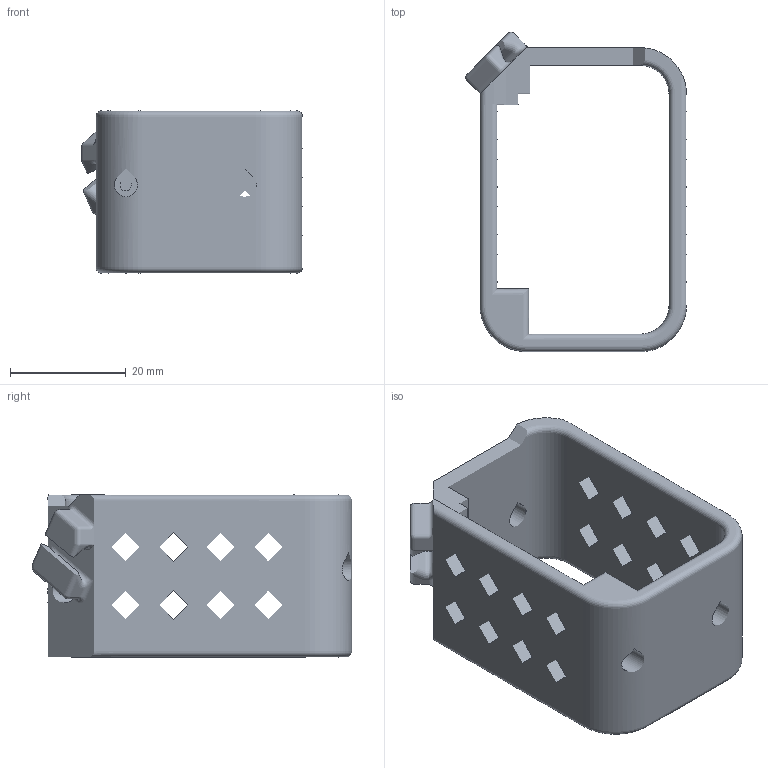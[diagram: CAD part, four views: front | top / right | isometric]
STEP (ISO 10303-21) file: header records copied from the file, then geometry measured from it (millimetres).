
FILE_DESCRIPTION(/* description */ ('STEP AP242 Edition 2','CAx-IF Rec.Pracs.---Representation and Presentation of Product Manufacturing Information (PMI)---4.0---2014-10-13','CAx-IF Rec.Pracs.---3D Tessellated Geometry---0.4---2014-09-14','2;1','CAx-IF Rec.Pracs.---User Defined Attributes---1.5---2016-08-15'),/* implementation_level */ '2;1');
FILE_NAME(/* name */ 'BambuLabA1mini_Leader_SO101 - Part 4',/* time_stamp */ '2026-11-25T15:08:23Z',/* author */ (''),/* organization */ (''),/* preprocessor_version */ 'ST-DEVELOPER v20',/* originating_system */ 'ONSHAPE BY PTC INC, 1.224',/* authorisation */ ' ');
FILE_SCHEMA (('AP242_MANAGED_MODEL_BASED_3D_ENGINEERING_MIM_LF { 1 0 10303 442 3 1 4 }'));
Length unit declared in the file: metre
Products named in the file (1): Part 4
Bounding box: 38.1 x 55.08 x 28 mm (x, y, z)
Surface area: 10043.9 mm2 (no closed solid volume)
Topology: 0 solids, 1 shells, 1 faces, 0 edges, 0 vertices
Faces by surface type: other 1
Entity records: 38 total; most frequent: STYLED_ITEM 2, PRESENTATION_STYLE_ASSIGNMENT 2, SURFACE_STYLE_USAGE 2, SURFACE_SIDE_STYLE 2, SURFACE_STYLE_FILL_AREA 2, FILL_AREA_STYLE 2, FILL_AREA_STYLE_COLOUR 2, DIRECTION 2
